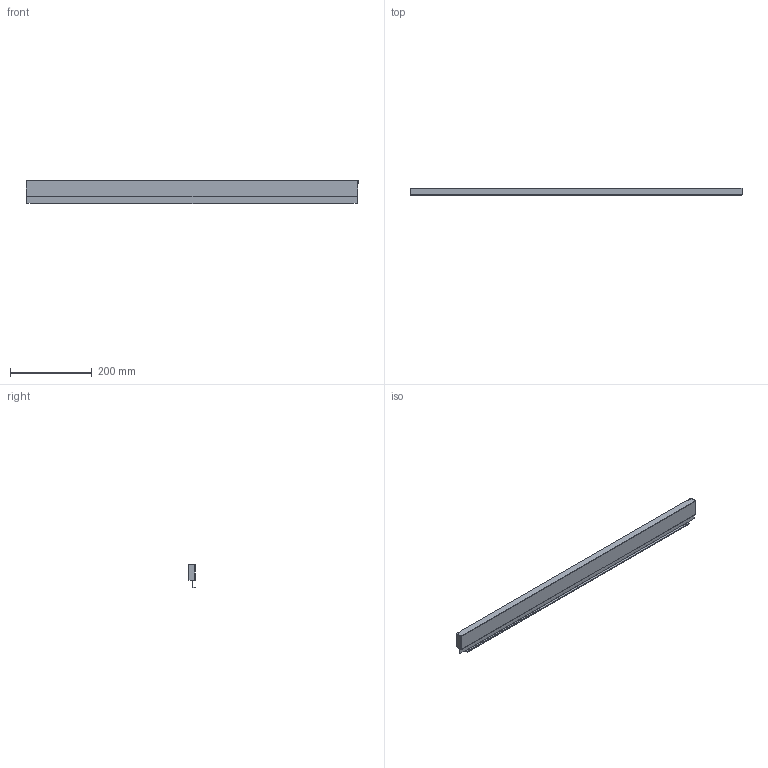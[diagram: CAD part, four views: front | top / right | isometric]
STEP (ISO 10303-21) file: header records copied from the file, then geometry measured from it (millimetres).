
FILE_DESCRIPTION (( 'STEP AP214' ), '1' );
FILE_NAME ('_STRW_H63_KAB_900.step', '2010-08-24T14:40:52', ( 'grass' ), ( '' ), 'SwSTEP 2.0', 'SolidWorks 2009', '' );
FILE_SCHEMA (( 'AUTOMOTIVE_DESIGN' ));
Length unit declared in the file: millimetre
Products named in the file (1): _STRW_H63_KAB_900
Bounding box: 810 x 17 x 58.14 mm (x, y, z)
Volume: 55980.9 mm3; surface area: 141458.7 mm2
Topology: 1 solids, 1 shells, 77 faces, 217 edges, 142 vertices
Faces by surface type: plane 54, cylinder 23
Entity records: 2507 total; most frequent: CARTESIAN_POINT 437, ORIENTED_EDGE 434, DIRECTION 419, EDGE_CURVE 217, LINE 171, VECTOR 171, VERTEX_POINT 142, AXIS2_PLACEMENT_3D 124
